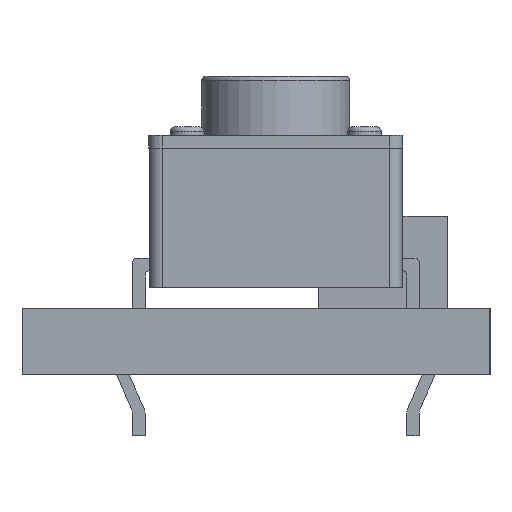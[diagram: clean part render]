
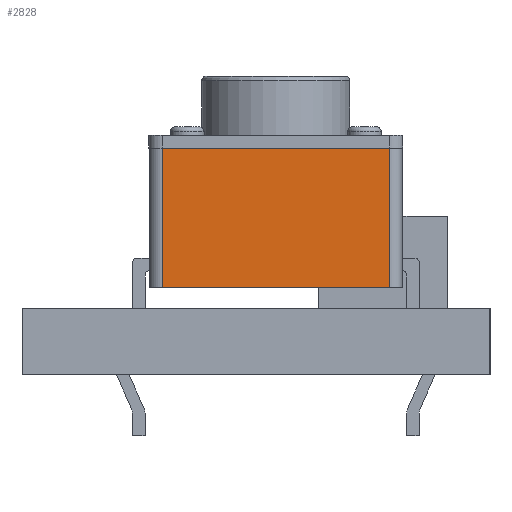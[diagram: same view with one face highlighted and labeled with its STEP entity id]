
A CAD part, left-side view. The second image highlights one B-rep face of the part: STEP entity #2828.
In plain terms, the highlighted planar face has unit normal (-1, 0, 0) as drawn and (0, 1, 0) by its records, which use the part's own axes.
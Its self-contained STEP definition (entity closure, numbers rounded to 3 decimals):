
#117=PLANE('',#3095);
#233=FACE_OUTER_BOUND('',#419,.T.);
#419=EDGE_LOOP('',(#2096,#2097,#2098,#2099));
#568=LINE('',#4372,#821);
#580=LINE('',#4407,#833);
#594=LINE('',#4435,#847);
#595=LINE('',#4437,#848);
#821=VECTOR('',#3558,1000.);
#833=VECTOR('',#3598,1000.);
#847=VECTOR('',#3622,1000.);
#848=VECTOR('',#3625,1000.);
#1248=VERTEX_POINT('',#4369);
#1249=VERTEX_POINT('',#4371);
#1257=VERTEX_POINT('',#4404);
#1258=VERTEX_POINT('',#4406);
#1540=EDGE_CURVE('',#1248,#1249,#568,.T.);
#1557=EDGE_CURVE('',#1258,#1257,#580,.T.);
#1572=EDGE_CURVE('',#1249,#1257,#594,.T.);
#1573=EDGE_CURVE('',#1248,#1258,#595,.T.);
#2096=ORIENTED_EDGE('',*,*,#1540,.F.);
#2097=ORIENTED_EDGE('',*,*,#1573,.T.);
#2098=ORIENTED_EDGE('',*,*,#1557,.T.);
#2099=ORIENTED_EDGE('',*,*,#1572,.F.);
#2828=ADVANCED_FACE('',(#233),#117,.F.);
#3095=AXIS2_PLACEMENT_3D('',#4436,#3623,#3624);
#3558=DIRECTION('',(-1.,0.,0.));
#3598=DIRECTION('',(-1.,0.,0.));
#3622=DIRECTION('',(0.,0.,-1.));
#3623=DIRECTION('center_axis',(0.,-1.,0.));
#3624=DIRECTION('ref_axis',(1.,0.,0.));
#3625=DIRECTION('',(0.,0.,-1.));
#4369=CARTESIAN_POINT('',(2.695,2.995,3.81));
#4371=CARTESIAN_POINT('',(-2.695,2.995,3.81));
#4372=CARTESIAN_POINT('',(-2.695,2.995,3.81));
#4404=CARTESIAN_POINT('',(-2.695,2.995,0.5));
#4406=CARTESIAN_POINT('',(2.695,2.995,0.5));
#4407=CARTESIAN_POINT('',(-2.695,2.995,0.5));
#4435=CARTESIAN_POINT('',(-2.695,2.995,4.11));
#4436=CARTESIAN_POINT('Origin',(-2.695,2.995,4.11));
#4437=CARTESIAN_POINT('',(2.695,2.995,4.11));
